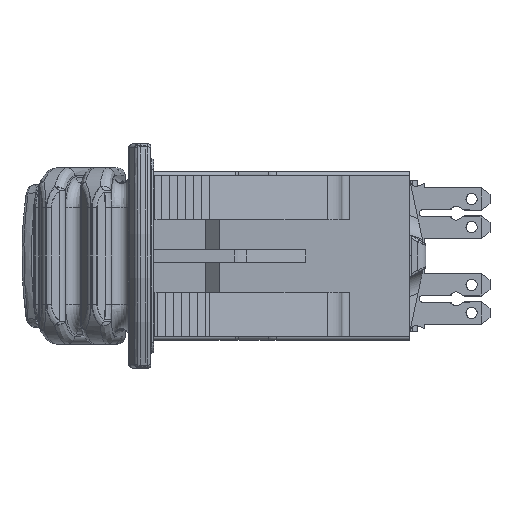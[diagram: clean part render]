
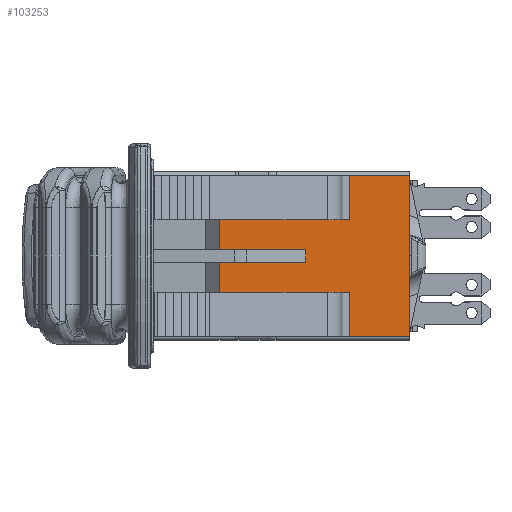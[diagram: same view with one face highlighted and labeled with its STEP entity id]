
A CAD part, left-side view. The second image highlights one B-rep face of the part: STEP entity #103253.
In plain terms, the highlighted planar face has unit normal (-1, 0, 0).
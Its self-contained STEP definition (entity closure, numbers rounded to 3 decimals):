
#20619=DIRECTION('',(0.,-1.,0.));
#20620=VECTOR('',#20619,16.678);
#20621=CARTESIAN_POINT('',(-20.5,16.678,10.05));
#20622=LINE('',#20621,#20620);
#20637=DIRECTION('',(0.001,0.005,-1.));
#20638=VECTOR('',#20637,0.05);
#20639=CARTESIAN_POINT('',(-20.5,16.678,-10.));
#20640=LINE('',#20639,#20638);
#20641=DIRECTION('',(0.,0.,1.));
#20642=VECTOR('',#20641,5.5);
#20643=CARTESIAN_POINT('',(-20.5,16.645,-10.));
#20644=LINE('',#20643,#20642);
#20645=DIRECTION('',(0.,0.,1.));
#20646=VECTOR('',#20645,3.75);
#20647=CARTESIAN_POINT('',(-20.5,23.8,-4.5));
#20648=LINE('',#20647,#20646);
#20649=DIRECTION('',(0.,-1.,0.));
#20650=VECTOR('',#20649,10.8);
#20651=CARTESIAN_POINT('',(-20.5,23.8,-0.75));
#20652=LINE('',#20651,#20650);
#20653=DIRECTION('',(0.,0.,1.));
#20654=VECTOR('',#20653,1.5);
#20655=CARTESIAN_POINT('',(-20.5,13.,-0.75));
#20656=LINE('',#20655,#20654);
#20657=DIRECTION('',(0.,-1.,0.));
#20658=VECTOR('',#20657,10.8);
#20659=CARTESIAN_POINT('',(-20.5,23.8,0.75));
#20660=LINE('',#20659,#20658);
#20661=DIRECTION('',(0.,0.,1.));
#20662=VECTOR('',#20661,3.75);
#20663=CARTESIAN_POINT('',(-20.5,23.8,0.75));
#20664=LINE('',#20663,#20662);
#20665=DIRECTION('',(0.,0.,1.));
#20666=VECTOR('',#20665,5.5);
#20667=CARTESIAN_POINT('',(-20.5,16.645,4.5));
#20668=LINE('',#20667,#20666);
#20669=DIRECTION('',(-0.001,-0.005,-1.));
#20670=VECTOR('',#20669,0.05);
#20671=CARTESIAN_POINT('',(-20.5,16.678,10.05));
#20672=LINE('',#20671,#20670);
#20673=DIRECTION('',(0.,0.,1.));
#20674=VECTOR('',#20673,5.5);
#20675=CARTESIAN_POINT('',(-20.5,7.55,4.5));
#20676=LINE('',#20675,#20674);
#20677=DIRECTION('',(0.,0.,-1.));
#20678=VECTOR('',#20677,5.5);
#20679=CARTESIAN_POINT('',(-20.5,11.559,10.));
#20680=LINE('',#20679,#20678);
#20681=DIRECTION('',(0.,0.,1.));
#20682=VECTOR('',#20681,5.5);
#20683=CARTESIAN_POINT('',(-20.5,7.55,-10.));
#20684=LINE('',#20683,#20682);
#20685=DIRECTION('',(0.,0.,1.));
#20686=VECTOR('',#20685,5.5);
#20687=CARTESIAN_POINT('',(-20.5,11.559,-10.));
#20688=LINE('',#20687,#20686);
#20693=DIRECTION('',(0.,1.,0.));
#20694=VECTOR('',#20693,16.678);
#20695=CARTESIAN_POINT('',(-20.5,0.,-10.05));
#20696=LINE('',#20695,#20694);
#20895=DIRECTION('',(0.,-1.,0.));
#20896=VECTOR('',#20895,4.009);
#20897=CARTESIAN_POINT('',(-20.5,11.559,10.));
#20898=LINE('',#20897,#20896);
#20999=CARTESIAN_POINT('',(-20.5,16.678,10.));
#21000=CARTESIAN_POINT('',(-20.5,16.674,10.));
#21001=CARTESIAN_POINT('',(-20.5,16.667,10.));
#21002=CARTESIAN_POINT('',(-20.5,16.656,10.));
#21003=CARTESIAN_POINT('',(-20.5,16.649,10.));
#21004=CARTESIAN_POINT('',(-20.5,16.645,10.));
#21084=DIRECTION('',(0.,1.,0.));
#21085=VECTOR('',#21084,4.009);
#21086=CARTESIAN_POINT('',(-20.5,7.55,4.5));
#21087=LINE('',#21086,#21085);
#21109=DIRECTION('',(0.,1.,0.));
#21110=VECTOR('',#21109,3.351);
#21111=CARTESIAN_POINT('',(-20.5,16.645,4.5));
#21112=LINE('',#21111,#21110);
#21166=DIRECTION('',(0.,-1.,0.));
#21167=VECTOR('',#21166,3.804);
#21168=CARTESIAN_POINT('',(-20.5,23.8,4.5));
#21169=LINE('',#21168,#21167);
#21339=DIRECTION('',(0.,-1.,0.));
#21340=VECTOR('',#21339,3.804);
#21341=CARTESIAN_POINT('',(-20.5,23.8,-4.5));
#21342=LINE('',#21341,#21340);
#21463=DIRECTION('',(0.,1.,0.));
#21464=VECTOR('',#21463,4.009);
#21465=CARTESIAN_POINT('',(-20.5,7.55,-10.));
#21466=LINE('',#21465,#21464);
#21516=DIRECTION('',(0.,-1.,0.));
#21517=VECTOR('',#21516,3.351);
#21518=CARTESIAN_POINT('',(-20.5,19.996,-4.5));
#21519=LINE('',#21518,#21517);
#21541=DIRECTION('',(0.,-1.,0.));
#21542=VECTOR('',#21541,4.009);
#21543=CARTESIAN_POINT('',(-20.5,11.559,-4.5));
#21544=LINE('',#21543,#21542);
#21728=CARTESIAN_POINT('',(-20.5,16.645,-10.));
#21729=CARTESIAN_POINT('',(-20.5,16.649,-10.));
#21730=CARTESIAN_POINT('',(-20.5,16.656,-10.));
#21731=CARTESIAN_POINT('',(-20.5,16.667,-10.));
#21732=CARTESIAN_POINT('',(-20.5,16.674,-10.));
#21733=CARTESIAN_POINT('',(-20.5,16.678,-10.));
#21815=DIRECTION('',(0.,0.,1.));
#21816=VECTOR('',#21815,20.1);
#21817=CARTESIAN_POINT('',(-20.5,0.,-10.05));
#21818=LINE('',#21817,#21816);
#59916=CARTESIAN_POINT('',(-20.5,23.8,-0.75));
#59917=CARTESIAN_POINT('',(-20.5,13.,-0.75));
#59918=VERTEX_POINT('',#59916);
#59919=VERTEX_POINT('',#59917);
#59920=CARTESIAN_POINT('',(-20.5,23.8,0.75));
#59921=CARTESIAN_POINT('',(-20.5,13.,0.75));
#59922=VERTEX_POINT('',#59920);
#59923=VERTEX_POINT('',#59921);
#60440=CARTESIAN_POINT('',(-20.5,0.,-10.05));
#60441=CARTESIAN_POINT('',(-20.5,16.678,-10.05));
#60442=VERTEX_POINT('',#60440);
#60443=VERTEX_POINT('',#60441);
#60460=CARTESIAN_POINT('',(-20.5,16.678,10.05));
#60461=CARTESIAN_POINT('',(-20.5,0.,10.05));
#60462=VERTEX_POINT('',#60460);
#60463=VERTEX_POINT('',#60461);
#61427=CARTESIAN_POINT('',(-20.5,23.8,-4.5));
#61429=VERTEX_POINT('',#61427);
#61435=CARTESIAN_POINT('',(-20.5,23.8,4.5));
#61437=VERTEX_POINT('',#61435);
#61510=CARTESIAN_POINT('',(-20.5,19.996,4.5));
#61511=VERTEX_POINT('',#61510);
#61712=CARTESIAN_POINT('',(-20.5,19.996,-4.5));
#61713=VERTEX_POINT('',#61712);
#61714=CARTESIAN_POINT('',(-20.5,11.559,10.));
#61715=CARTESIAN_POINT('',(-20.5,11.559,4.5));
#61716=VERTEX_POINT('',#61714);
#61717=VERTEX_POINT('',#61715);
#61726=CARTESIAN_POINT('',(-20.5,11.559,-10.));
#61727=CARTESIAN_POINT('',(-20.5,11.559,-4.5));
#61728=VERTEX_POINT('',#61726);
#61729=VERTEX_POINT('',#61727);
#61794=CARTESIAN_POINT('',(-20.5,7.55,4.5));
#61795=CARTESIAN_POINT('',(-20.5,7.55,10.));
#61796=VERTEX_POINT('',#61794);
#61797=VERTEX_POINT('',#61795);
#61802=CARTESIAN_POINT('',(-20.5,7.55,-10.));
#61803=CARTESIAN_POINT('',(-20.5,7.55,-4.5));
#61804=VERTEX_POINT('',#61802);
#61805=VERTEX_POINT('',#61803);
#61910=CARTESIAN_POINT('',(-20.5,16.645,4.5));
#61911=CARTESIAN_POINT('',(-20.5,16.645,10.));
#61912=VERTEX_POINT('',#61910);
#61913=VERTEX_POINT('',#61911);
#61918=CARTESIAN_POINT('',(-20.5,16.645,-10.));
#61919=CARTESIAN_POINT('',(-20.5,16.645,-4.5));
#61920=VERTEX_POINT('',#61918);
#61921=VERTEX_POINT('',#61919);
#62062=CARTESIAN_POINT('',(-20.5,16.677,10.));
#62063=VERTEX_POINT('',#62062);
#62064=CARTESIAN_POINT('',(-20.5,16.677,-10.));
#62065=VERTEX_POINT('',#62064);
#103191=CARTESIAN_POINT('',(-20.5,17.2,-10.5));
#103192=DIRECTION('',(-1.,0.,0.));
#103193=DIRECTION('',(0.,-1.,0.));
#103194=AXIS2_PLACEMENT_3D('',#103191,#103192,#103193);
#103195=PLANE('',#103194);
#103197=ORIENTED_EDGE('',*,*,#103196,.T.);
#103199=ORIENTED_EDGE('',*,*,#103198,.F.);
#103201=ORIENTED_EDGE('',*,*,#103200,.F.);
#103203=ORIENTED_EDGE('',*,*,#103202,.T.);
#103205=ORIENTED_EDGE('',*,*,#103204,.F.);
#103207=ORIENTED_EDGE('',*,*,#103206,.F.);
#103209=ORIENTED_EDGE('',*,*,#103208,.T.);
#103211=ORIENTED_EDGE('',*,*,#103210,.T.);
#103213=ORIENTED_EDGE('',*,*,#103212,.T.);
#103215=ORIENTED_EDGE('',*,*,#103214,.F.);
#103217=ORIENTED_EDGE('',*,*,#103216,.T.);
#103219=ORIENTED_EDGE('',*,*,#103218,.T.);
#103221=ORIENTED_EDGE('',*,*,#103220,.F.);
#103223=ORIENTED_EDGE('',*,*,#103222,.T.);
#103225=ORIENTED_EDGE('',*,*,#103224,.F.);
#103227=ORIENTED_EDGE('',*,*,#103226,.F.);
#103228=ORIENTED_EDGE('',*,*,#103175,.T.);
#103230=ORIENTED_EDGE('',*,*,#103229,.F.);
#103231=EDGE_LOOP('',(#103197,#103199,#103201,#103203,#103205,#103207,#103209,
#103211,#103213,#103215,#103217,#103219,#103221,#103223,#103225,#103227,#103228,
#103230));
#103232=FACE_OUTER_BOUND('',#103231,.F.);
#103234=ORIENTED_EDGE('',*,*,#103233,.T.);
#103236=ORIENTED_EDGE('',*,*,#103235,.F.);
#103238=ORIENTED_EDGE('',*,*,#103237,.T.);
#103240=ORIENTED_EDGE('',*,*,#103239,.F.);
#103241=EDGE_LOOP('',(#103234,#103236,#103238,#103240));
#103242=FACE_BOUND('',#103241,.F.);
#103244=ORIENTED_EDGE('',*,*,#103243,.T.);
#103246=ORIENTED_EDGE('',*,*,#103245,.F.);
#103248=ORIENTED_EDGE('',*,*,#103247,.F.);
#103250=ORIENTED_EDGE('',*,*,#103249,.F.);
#103251=EDGE_LOOP('',(#103244,#103246,#103248,#103250));
#103252=FACE_BOUND('',#103251,.F.);
#21005=B_SPLINE_CURVE_WITH_KNOTS('',3,(#20999,#21000,#21001,#21002,#21003,
#21004),.UNSPECIFIED.,.F.,.F.,(4,1,1,4),(0.,0.333,
0.667,1.),.UNSPECIFIED.);
#21734=B_SPLINE_CURVE_WITH_KNOTS('',3,(#21728,#21729,#21730,#21731,#21732,
#21733),.UNSPECIFIED.,.F.,.F.,(4,1,1,4),(0.,0.333,
0.667,1.),.UNSPECIFIED.);
#103175=EDGE_CURVE('',#60462,#60463,#20622,.T.);
#103196=EDGE_CURVE('',#60442,#60443,#20696,.T.);
#103198=EDGE_CURVE('',#62065,#60443,#20640,.T.);
#103200=EDGE_CURVE('',#61920,#62065,#21734,.T.);
#103202=EDGE_CURVE('',#61920,#61921,#20644,.T.);
#103204=EDGE_CURVE('',#61713,#61921,#21519,.T.);
#103206=EDGE_CURVE('',#61429,#61713,#21342,.T.);
#103208=EDGE_CURVE('',#61429,#59918,#20648,.T.);
#103210=EDGE_CURVE('',#59918,#59919,#20652,.T.);
#103212=EDGE_CURVE('',#59919,#59923,#20656,.T.);
#103214=EDGE_CURVE('',#59922,#59923,#20660,.T.);
#103216=EDGE_CURVE('',#59922,#61437,#20664,.T.);
#103218=EDGE_CURVE('',#61437,#61511,#21169,.T.);
#103220=EDGE_CURVE('',#61912,#61511,#21112,.T.);
#103222=EDGE_CURVE('',#61912,#61913,#20668,.T.);
#103224=EDGE_CURVE('',#62063,#61913,#21005,.T.);
#103226=EDGE_CURVE('',#60462,#62063,#20672,.T.);
#103229=EDGE_CURVE('',#60442,#60463,#21818,.T.);
#103233=EDGE_CURVE('',#61796,#61797,#20676,.T.);
#103235=EDGE_CURVE('',#61716,#61797,#20898,.T.);
#103237=EDGE_CURVE('',#61716,#61717,#20680,.T.);
#103239=EDGE_CURVE('',#61796,#61717,#21087,.T.);
#103243=EDGE_CURVE('',#61804,#61805,#20684,.T.);
#103245=EDGE_CURVE('',#61729,#61805,#21544,.T.);
#103247=EDGE_CURVE('',#61728,#61729,#20688,.T.);
#103249=EDGE_CURVE('',#61804,#61728,#21466,.T.);
#103253=ADVANCED_FACE('',(#103232,#103242,#103252),#103195,.T.);
